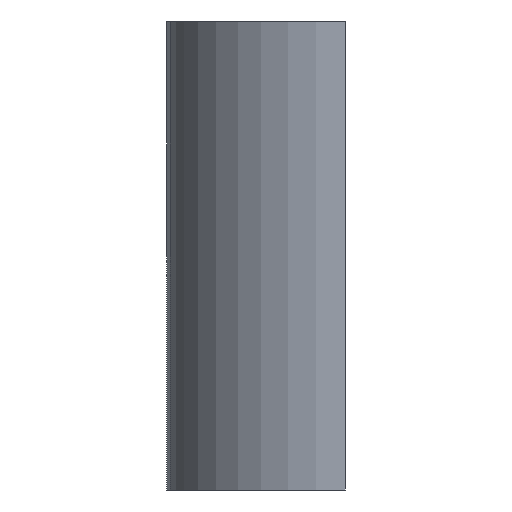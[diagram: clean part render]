
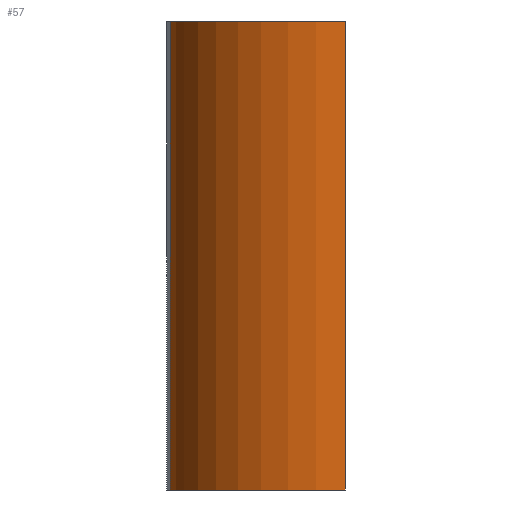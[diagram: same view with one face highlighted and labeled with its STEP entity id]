
A CAD part, left-side view. The second image highlights one B-rep face of the part: STEP entity #57.
In plain terms, the highlighted free-form (B-spline) face has degree [3, 1] with [4, 2] control points.
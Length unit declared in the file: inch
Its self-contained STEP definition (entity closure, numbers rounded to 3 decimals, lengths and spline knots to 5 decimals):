
#57=ADVANCED_FACE('',(#118),#119,.T.);
#118=FACE_OUTER_BOUND('',#216,.T.);
#119=B_SPLINE_SURFACE_WITH_KNOTS('',3,1,((#217,#218),(#219,#220),(#221,#222),(#223,#224)),.UNSPECIFIED.,.F.,.F.,.F.,(4,4),(2,2),(-1.0,-0.0),(0.0,0.8125),.UNSPECIFIED.);
#216=EDGE_LOOP('',(#341,#342,#343,#344));
#217=CARTESIAN_POINT('',(0.21988,0.30397,0.0));
#218=CARTESIAN_POINT('',(0.21988,0.30397,0.8125));
#219=CARTESIAN_POINT('',(0.07469,0.27532,0.0));
#220=CARTESIAN_POINT('',(0.07469,0.27532,0.8125));
#221=CARTESIAN_POINT('',(-0.03,0.148,0.0));
#222=CARTESIAN_POINT('',(-0.03,0.148,0.8125));
#223=CARTESIAN_POINT('',(-0.03,0.0,0.0));
#224=CARTESIAN_POINT('',(-0.03,0.0,0.8125));
#341=ORIENTED_EDGE('',*,*,#466,.T.);
#342=ORIENTED_EDGE('',*,*,#467,.F.);
#343=ORIENTED_EDGE('',*,*,#468,.F.);
#344=ORIENTED_EDGE('',*,*,#469,.T.);
#466=EDGE_CURVE('',#552,#553,#554,.T.);
#467=EDGE_CURVE('',#555,#553,#556,.T.);
#468=EDGE_CURVE('',#557,#555,#558,.T.);
#469=EDGE_CURVE('',#557,#552,#559,.T.);
#552=VERTEX_POINT('',#698);
#553=VERTEX_POINT('',#699);
#554=B_SPLINE_CURVE_WITH_KNOTS('',3,(#700,#701,#702,#703),.UNSPECIFIED.,.F.,.F.,(4,4),(0.0,1.0),.UNSPECIFIED.);
#555=VERTEX_POINT('',#704);
#556=LINE('',#705,#706);
#557=VERTEX_POINT('',#707);
#558=B_SPLINE_CURVE_WITH_KNOTS('',3,(#708,#709,#710,#711),.UNSPECIFIED.,.F.,.F.,(4,4),(0.0,1.0),.UNSPECIFIED.);
#559=LINE('',#712,#713);
#698=CARTESIAN_POINT('',(-0.03,0.0,0.8125));
#699=CARTESIAN_POINT('',(0.21988,0.30397,0.8125));
#700=CARTESIAN_POINT('',(-0.03,0.0,0.8125));
#701=CARTESIAN_POINT('',(-0.03,0.148,0.8125));
#702=CARTESIAN_POINT('',(0.07469,0.27532,0.8125));
#703=CARTESIAN_POINT('',(0.21988,0.30397,0.8125));
#704=CARTESIAN_POINT('',(0.21988,0.30397,0.0));
#705=CARTESIAN_POINT('',(0.21988,0.30397,0.0));
#706=VECTOR('',#807,1.0);
#707=CARTESIAN_POINT('',(-0.03,0.0,0.0));
#708=CARTESIAN_POINT('',(-0.03,0.0,0.0));
#709=CARTESIAN_POINT('',(-0.03,0.148,0.0));
#710=CARTESIAN_POINT('',(0.07469,0.27532,0.0));
#711=CARTESIAN_POINT('',(0.21988,0.30397,0.0));
#712=CARTESIAN_POINT('',(-0.03,0.0,0.0));
#713=VECTOR('',#808,1.0);
#807=DIRECTION('',(0.0,0.0,1.0));
#808=DIRECTION('',(0.0,0.0,1.0));
